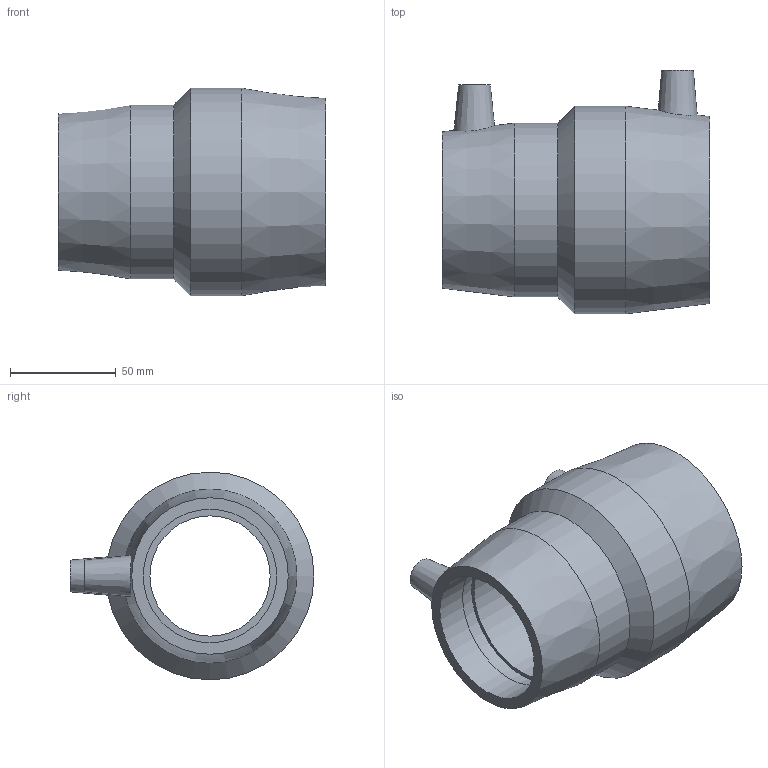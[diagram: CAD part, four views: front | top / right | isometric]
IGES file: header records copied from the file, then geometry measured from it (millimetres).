
Global section: file name: 491104075063.ipt; native system: Autodesk Inventor 2015; preprocessor: unknown; author: KIM; date: 20171106.093732; units: millimetre
Bounding box: 126 x 115 x 98 mm (x, y, z)
Volume: 298801.4 mm3; surface area: 72678.5 mm2
Topology: 1 solids, 1 shells, 31 faces, 72 edges, 51 vertices
Faces by surface type: plane 12, revolution 10, cone 5, cylinder 4
Full cylindrical faces by diameter (mm): 4 x2, 82 x1, 98 x1
